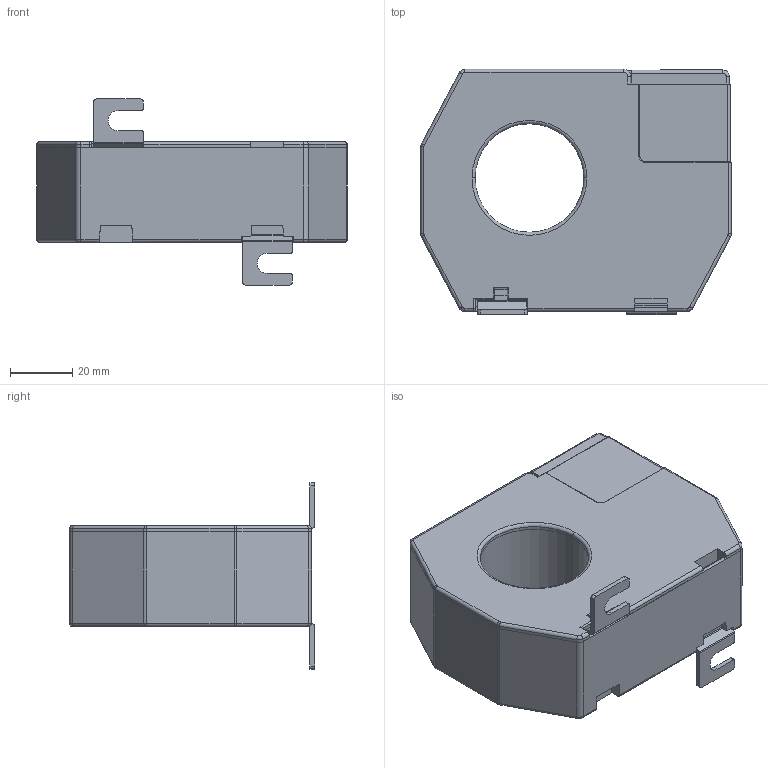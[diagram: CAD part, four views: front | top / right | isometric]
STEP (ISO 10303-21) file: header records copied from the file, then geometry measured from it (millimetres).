
FILE_DESCRIPTION((''),'2;1');
FILE_NAME('WG_35_ASM','2014-09-08T',('esors'),(''),'PRO/ENGINEER BY PARAMETRIC TECHNOLOGY CORPORATION, 2013410','PRO/ENGINEER BY PARAMETRIC TECHNOLOGY CORPORATION, 2013410','');
FILE_SCHEMA(('AUTOMOTIVE_DESIGN { 1 0 10303 214 1 1 1 1 }'));
Length unit declared in the file: millimetre
Products named in the file (7): 932602; 932603; 932601; 932818; 908555; PRT0002; WG_35_ASM
Assembly tree (6 placements, depth 2):
  WG_35_ASM
    932602
    932603
    932601
    932818
    908555
    PRT0002
Bounding box: 100 x 79 x 60 mm (x, y, z)
Volume: 57665.9 mm3; surface area: 64436.5 mm2
Topology: 6 solids, 6 shells, 670 faces, 1779 edges, 1137 vertices
Faces by surface type: plane 440, cylinder 188, torus 23, bspline 11, cone 8
Entity records: 27152 total; most frequent: CARTESIAN_POINT 4164, ORIENTED_EDGE 3558, DIRECTION 3445, PRESENTATION_STYLE_ASSIGNMENT 1785, STYLED_ITEM 1785, CURVE_STYLE 1779, EDGE_CURVE 1779, VECTOR 1369
